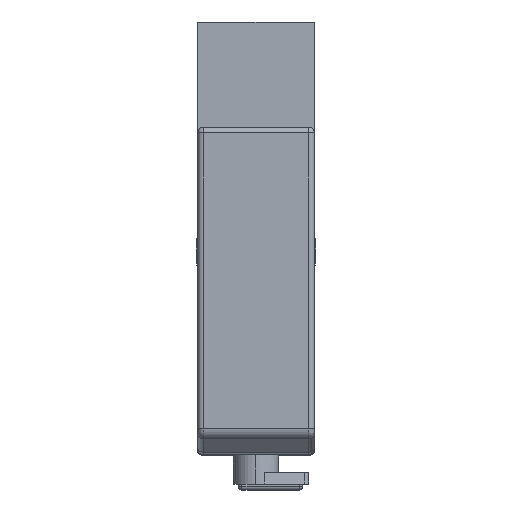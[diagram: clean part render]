
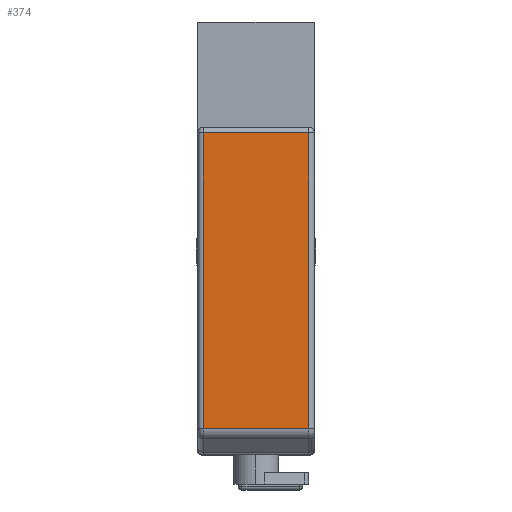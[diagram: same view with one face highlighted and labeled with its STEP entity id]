
A CAD part, top view. The second image highlights one B-rep face of the part: STEP entity #374.
In plain terms, the highlighted planar face has unit normal (0, 0, 1).
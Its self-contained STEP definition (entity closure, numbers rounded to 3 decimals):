
#374=ADVANCED_FACE('',(#1308),#1307,.F.);
#1307=PLANE('',#3436);
#1308=FACE_OUTER_BOUND('',#3437,.T.);
#3433=CARTESIAN_POINT('',(5.4,-27.283,27.4));
#3434=DIRECTION('',(0.,0.,-1.));
#3435=DIRECTION('',(-1.,0.,0.));
#3436=AXIS2_PLACEMENT_3D('',#3433,#3434,#3435);
#3437=EDGE_LOOP('',(#4804,#4805,#4806,#4807));
#4804=ORIENTED_EDGE('',*,*,#5797,.T.);
#4805=ORIENTED_EDGE('',*,*,#5761,.T.);
#4806=ORIENTED_EDGE('',*,*,#5798,.F.);
#4807=ORIENTED_EDGE('',*,*,#5782,.T.);
#5761=EDGE_CURVE('',#7318,#7331,#7338,.T.);
#5782=EDGE_CURVE('',#7449,#7469,#7476,.T.);
#5797=EDGE_CURVE('',#7469,#7318,#7571,.T.);
#5798=EDGE_CURVE('',#7449,#7331,#7577,.T.);
#7318=VERTEX_POINT('',#10737);
#7331=VERTEX_POINT('',#10746);
#7338=LINE('',#10751,#10752);
#7449=VERTEX_POINT('',#10823);
#7469=VERTEX_POINT('',#10837);
#7476=LINE('',#10842,#10843);
#7571=LINE('',#10895,#10896);
#7577=LINE('',#10898,#10899);
#10737=CARTESIAN_POINT('',(-4.5,0.5,27.4));
#10746=CARTESIAN_POINT('',(-4.5,-24.758,27.4));
#10751=CARTESIAN_POINT('',(-4.5,0.5,27.4));
#10752=VECTOR('',#10753,25.258);
#10753=DIRECTION('',(0.,-1.,0.));
#10823=CARTESIAN_POINT('',(4.5,-24.758,27.4));
#10837=CARTESIAN_POINT('',(4.5,0.5,27.4));
#10842=CARTESIAN_POINT('',(4.5,-24.758,27.4));
#10843=VECTOR('',#10844,25.258);
#10844=DIRECTION('',(0.,1.,0.));
#10895=CARTESIAN_POINT('',(4.5,0.5,27.4));
#10896=VECTOR('',#10897,9.);
#10897=DIRECTION('',(-1.,0.,0.));
#10898=CARTESIAN_POINT('',(4.5,-24.758,27.4));
#10899=VECTOR('',#10900,9.);
#10900=DIRECTION('',(-1.,0.,0.));
